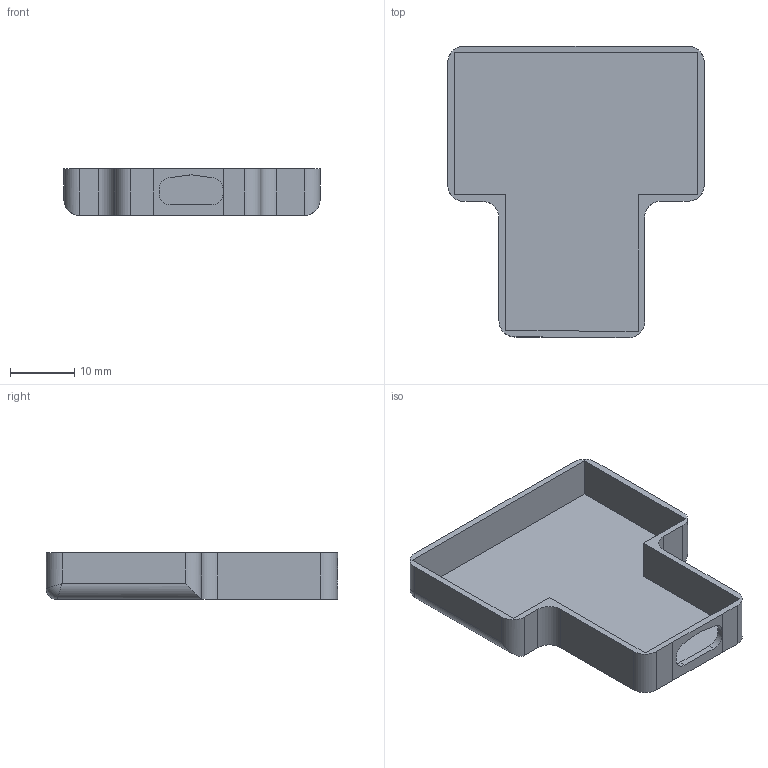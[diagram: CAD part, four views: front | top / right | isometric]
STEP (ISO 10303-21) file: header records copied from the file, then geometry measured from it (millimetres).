
FILE_DESCRIPTION(('HOOPS Exchange Step'),'2;1');
FILE_NAME('C:\Users\Alvin Nguyen\AppData\Local\Packages\Shapr3D.Shapr3D_dvv5p1vgwv6mp\TempState\export\temp_export','2026-07-04T23:54:53+19:00',('Alvin Nguyen'),('Shapr3D Limited'),'HOOPS Exchange 2026.3','Shapr3D','Authorized');
FILE_SCHEMA( ('AP242_MANAGED_MODEL_BASED_3D_ENGINEERING_MIM_LF {1 0 10303 442 1 1 4}') );
Length unit declared in the file: millimetre
Products named in the file (1): bottom
Bounding box: 39.81 x 45.31 x 7.3 mm (x, y, z)
Volume: 2324 mm3; surface area: 4932.3 mm2
Topology: 1 solids, 1 shells, 45 faces, 120 edges, 76 vertices
Faces by surface type: plane 28, cylinder 14, bspline 3
Entity records: 2909 total; most frequent: CARTESIAN_POINT 1762, ORIENTED_EDGE 236, DIRECTION 222, EDGE_CURVE 118, VECTOR 90, LINE 90, VERTEX_POINT 76, AXIS2_PLACEMENT_3D 66
